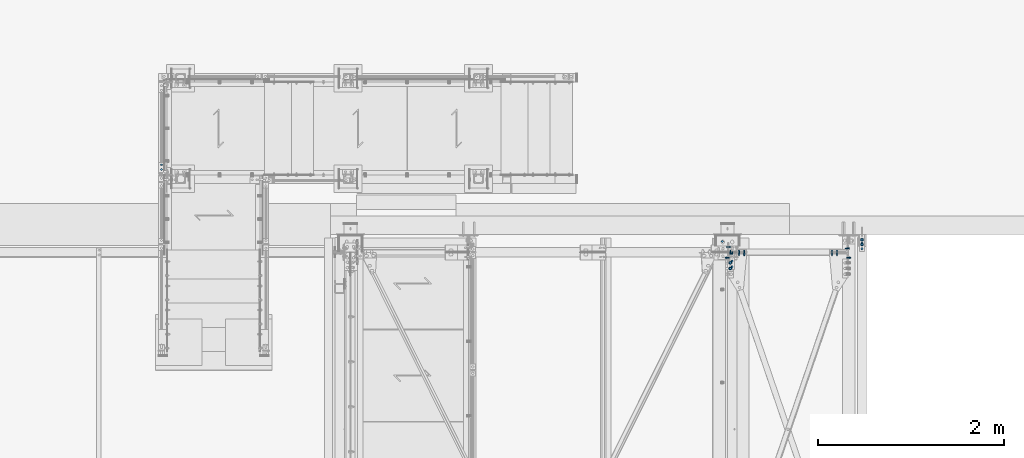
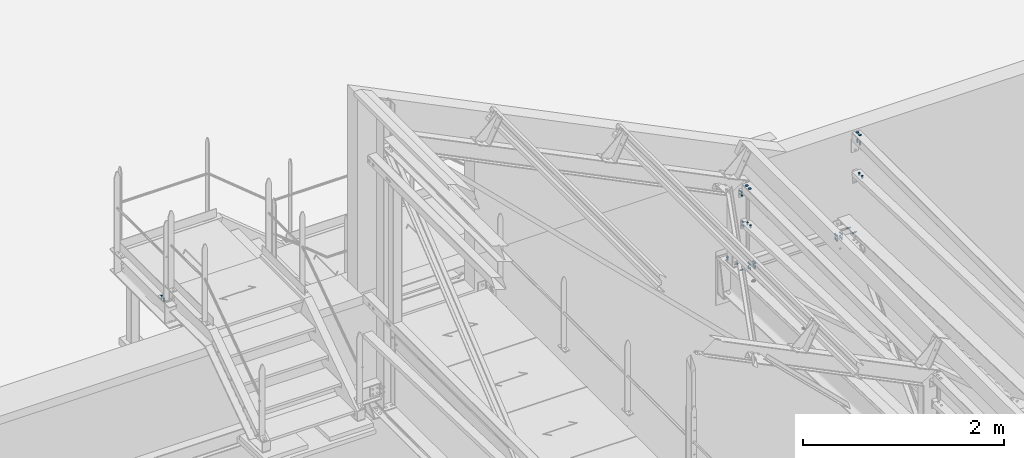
# One storey, part 336 of 362: 17 mechanical fasteners.
"""IFC2X3 building model written with IfcOpenShell, lengths in millimetres."""

from ifc_helpers import new_model, si_unit, frame, frame_2d, origin_with_axes, origin_2d_with_axis, place, context, subcontext, project, spatial, polyline, circle_curve, parameter, trimmed, segment, composite_curve, circle, outline, extrude, source, transform, mapped, material, type_object, element, save


model = new_model("IFC2X3")

# Units and contexts
model_context = context("Model", 3, precision=1e-05, world=origin_with_axes())
body_context = subcontext(model_context, "Body", "Model", "MODEL_VIEW")
ifc_project = project(units=[si_unit("LENGTHUNIT", "METRE", prefix="MILLI"), si_unit("AREAUNIT", "SQUARE_METRE"), si_unit("VOLUMEUNIT", "CUBIC_METRE"), si_unit("MASSUNIT", "GRAM", prefix="KILO"), si_unit("TIMEUNIT", "SECOND"), si_unit("PLANEANGLEUNIT", "RADIAN"), si_unit("SOLIDANGLEUNIT", "STERADIAN"), si_unit("THERMODYNAMICTEMPERATUREUNIT", "DEGREE_CELSIUS"), si_unit("LUMINOUSINTENSITYUNIT", "LUMEN")], contexts=[model_context])

# Site, building, storey
site_placement = place(None, origin_with_axes())
site = spatial("IfcSite", under=ifc_project, at=site_placement, Name="Undefined", CompositionType="ELEMENT")
building_placement = place(site_placement, origin_with_axes())
building = spatial("IfcBuilding", under=site, at=building_placement, Name="Undefined", CompositionType="ELEMENT")
storey_placement = place(building_placement, origin_with_axes())
storey = spatial("IfcBuildingStorey", under=building, at=storey_placement, Name="Undefined", CompositionType="ELEMENT", Elevation=0.0)

# Mechanical fasteners
ifc_material_1 = material(Name="8.8-SB-GALVA")
mechanical_fastener_type = type_object("IfcMechanicalFastenerType", Name="Bolt assembly")
shared_shape_1 = source(origin_with_axes(), body_context, "Body", "SweptSolid", [
    extrude(circle(Radius=7.0, at=origin_2d_with_axis()), frame((0.0, -0.100011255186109, 0.0), z_axis=(0.0, 1.0, 0.0), x_axis=(1.0, 0.0, 0.0)), (0.0, 0.0, 1.0), 12.9),
    extrude(circle(Radius=7.0, at=origin_2d_with_axis()), frame((0.0, -9.9, 0.0), z_axis=(0.0, 1.0, 0.0), x_axis=(1.0, 0.0, 0.0)), (0.0, 0.0, 1.0), 10.0),
    extrude(outline(polyline([(10.39230484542, 0.0), (5.19615242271, 9.00000000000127), (-5.19615242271, 9.00000000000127), (-10.39230484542, 0.0), (-5.19615242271, -9.00000000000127), (5.19615242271, -9.00000000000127), (10.39230484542, 0.0)])), frame((0.0, -17.92, 0.0), z_axis=(0.0, 1.0, 0.0), x_axis=(1.0, 0.0, 0.0)), (0.0, 0.0, 1.0), 7.92),
    extrude(circle(Radius=6.0, at=origin_2d_with_axis()), frame((0.0, -10.0000010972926, 0.0), z_axis=(0.0, 1.0, 0.0), x_axis=(1.0, 0.0, 0.0)), (0.0, 0.0, 1.0), 40.0),
    extrude(outline(polyline([(11.5008173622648, 0.0), (5.7504086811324, 9.96000000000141), (-5.7504086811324, 9.96000000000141), (-11.5008173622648, 0.0), (-5.7504086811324, -9.96000000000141), (5.7504086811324, -9.96000000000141), (11.5008173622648, 0.0)])), frame((0.0, 12.7984645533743, 0.0), z_axis=(0.0, 1.0, 0.0), x_axis=(1.0, 0.0, 0.0)), (0.0, 0.0, 1.0), 7.92),
])
mechanical_fastener_1_placement = place(storey_placement, frame((32249.9863365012, 16140.0014648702, 8700.00000001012), z_axis=(1.0, 0.0, 0.0), x_axis=(0.0, -1.0, 0.0)))
element("IfcMechanicalFastener", 1, at=mechanical_fastener_1_placement, inside=storey, type_object=mechanical_fastener_type, material=ifc_material_1, Name="Bolt assembly", NominalDiameter=12.0, NominalLength=40.0, context=body_context, shape_type="MappedRepresentation", body=[
    mapped(shared_shape_1, transform((0.0, 0.0, 0.0))),
    mapped(shared_shape_1, transform((49.9999999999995, 0.0, -3.63797880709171e-12))),
])
ifc_material_2 = material(Name="6.8")
shared_shape_2 = source(origin_with_axes(), body_context, "Body", "SweptSolid", [
    extrude(circle(Radius=15.0, at=origin_2d_with_axis()), frame((0.0, 0.0, 0.0), z_axis=(0.0, 1.0, 0.0), x_axis=(1.0, 0.0, 0.0)), (0.0, 0.0, 1.0), 4.1),
])
mechanical_fastener_2_placement = place(storey_placement, frame((38360.0, 15026.5, 8550.0), z_axis=(-1.0, 0.0, 0.0), x_axis=(0.0, 1.0, 0.0)))
element("IfcMechanicalFastener", 2, at=mechanical_fastener_2_placement, inside=storey, type_object=mechanical_fastener_type, material=ifc_material_2, Name="Bolt assembly", NominalDiameter=30.0, NominalLength=4.0, context=body_context, shape_type="MappedRepresentation", body=[
    mapped(shared_shape_2, transform((0.0, 0.0, 0.0))),
    mapped(shared_shape_2, transform((60.0, 0.0, 0.0))),
])
ifc_material_3 = material(Name="#_SB-8.8-ZINGUE")
shared_shape_3 = source(origin_with_axes(), body_context, "Body", "SweptSolid", [
    extrude(circle(Radius=7.0, at=origin_2d_with_axis()), frame((0.0, -0.100011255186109, 0.0), z_axis=(0.0, 1.0, 0.0), x_axis=(1.0, 0.0, 0.0)), (0.0, 0.0, 1.0), 14.7),
    extrude(outline(composite_curve([segment(polyline([(-7.0, 7.0), (7.0, 7.0)]), True, "CONTINUOUS"), segment(trimmed(circle_curve(frame_2d((7.0, 0.0), x_axis=(0.0, 1.0)), 7.0), [parameter(0.0)], [parameter(3.14159265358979)], False, "PARAMETER"), True, "CONTINUOUS"), segment(polyline([(7.0, -7.0), (-7.0, -7.0)]), True, "CONTINUOUS"), segment(trimmed(circle_curve(frame_2d((-7.0, 0.0), x_axis=(0.0, -1.0)), 7.0), [parameter(0.0)], [parameter(3.14159265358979)], False, "PARAMETER"), True, "DISCONTINUOUS")], self_intersect=False)), frame((0.0, -1.90000109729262, 0.0), z_axis=(0.0, 1.0, 0.0), x_axis=(1.0, 0.0, 0.0)), (0.0, 0.0, 1.0), 2.0),
    extrude(outline(polyline([(10.39230484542, 0.0), (5.19615242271, 9.00000000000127), (-5.19615242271, 9.00000000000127), (-10.39230484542, 0.0), (-5.19615242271, -9.00000000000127), (5.19615242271, -9.00000000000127), (10.39230484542, 0.0)])), frame((0.0, -13.8800244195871, 0.0), z_axis=(0.0, 1.0, 0.0), x_axis=(1.0, 0.0, 0.0)), (0.0, 0.0, 1.0), 7.92),
    extrude(circle(Radius=6.0, at=origin_2d_with_axis()), frame((0.0, -5.96002441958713, 0.0), z_axis=(0.0, 1.0, 0.0), x_axis=(1.0, 0.0, 0.0)), (0.0, 0.0, 1.0), 40.0),
    extrude(circle(Radius=10.8, at=origin_2d_with_axis()), frame((0.0, -5.96002441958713, 0.0), z_axis=(0.0, 1.0, 0.0), x_axis=(1.0, 0.0, 0.0)), (0.0, 0.0, 1.0), 3.96),
    extrude(outline(polyline([(11.5008173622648, 0.0), (5.7504086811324, 9.96000000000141), (-5.7504086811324, 9.96000000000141), (-11.5008173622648, 0.0), (-5.7504086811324, -9.96000000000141), (5.7504086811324, -9.96000000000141), (11.5008173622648, 0.0)])), frame((0.0, 14.5999903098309, 0.0), z_axis=(0.0, 1.0, 0.0), x_axis=(1.0, 0.0, 0.0)), (0.0, 0.0, 1.0), 7.92),
])
mechanical_fastener_3_placement = place(storey_placement, frame((38275.0, 15317.3222832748, 7568.63375588), z_axis=(0.0, -0.999506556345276, 0.031410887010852), x_axis=(-1.0, 0.0, 0.0)))
element("IfcMechanicalFastener", 3, at=mechanical_fastener_3_placement, inside=storey, type_object=mechanical_fastener_type, material=ifc_material_3, Name="Bolt assembly", NominalDiameter=12.0, NominalLength=40.0, context=body_context, shape_type="MappedRepresentation", body=[
    mapped(shared_shape_3, transform((0.0, 0.0, 0.0))),
])
ifc_material_4 = material(Name="8.8-SB-ZINGUE")
shared_shape_4 = source(origin_with_axes(), body_context, "Body", "SweptSolid", [
    extrude(circle(Radius=7.0, at=origin_2d_with_axis()), frame((0.0, -3.90351516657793, 0.0), z_axis=(0.0, 1.0, 0.0), x_axis=(1.0, 0.0, 0.0)), (0.0, 0.0, 1.0), 4.0),
    extrude(outline(composite_curve([segment(polyline([(-7.0, 7.0), (7.0, 7.0)]), True, "CONTINUOUS"), segment(trimmed(circle_curve(frame_2d((7.0, 0.0), x_axis=(0.0, 1.0)), 7.0), [parameter(0.0)], [parameter(3.14159265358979)], False, "PARAMETER"), True, "CONTINUOUS"), segment(polyline([(7.0, -7.0), (-7.0, -7.0)]), True, "CONTINUOUS"), segment(trimmed(circle_curve(frame_2d((-7.0, 0.0), x_axis=(0.0, -1.0)), 7.0), [parameter(0.0)], [parameter(3.14159265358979)], False, "PARAMETER"), True, "DISCONTINUOUS")], self_intersect=False)), frame((0.0, -0.100011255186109, 0.0), z_axis=(0.0, 1.0, 0.0), x_axis=(1.0, 0.0, 0.0)), (0.0, 0.0, 1.0), 6.1),
    extrude(outline(polyline([(10.39230484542, 0.0), (5.19615242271, 9.00000000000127), (-5.19615242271, 9.00000000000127), (-10.39230484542, 0.0), (-5.19615242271, -9.00000000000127), (5.19615242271, -9.00000000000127), (10.39230484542, 0.0)])), frame((0.0, -11.9235151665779, 0.0), z_axis=(0.0, 1.0, 0.0), x_axis=(1.0, 0.0, 0.0)), (0.0, 0.0, 1.0), 7.92),
    extrude(circle(Radius=6.0, at=origin_2d_with_axis()), frame((0.0, -4.00351516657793, 0.0), z_axis=(0.0, 1.0, 0.0), x_axis=(1.0, 0.0, 0.0)), (0.0, 0.0, 1.0), 30.0),
    extrude(circle(Radius=10.8, at=origin_2d_with_axis()), frame((0.0, 6.0, 0.0), z_axis=(0.0, 1.0, 0.0), x_axis=(1.0, 0.0, 0.0)), (0.0, 0.0, 1.0), 3.96),
    extrude(outline(polyline([(11.5008173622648, 0.0), (5.7504086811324, 9.96000000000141), (-5.7504086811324, 9.96000000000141), (-11.5008173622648, 0.0), (-5.7504086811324, -9.96000000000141), (5.7504086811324, -9.96000000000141), (11.5008173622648, 0.0)])), frame((0.0, 9.9600084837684, 0.0), z_axis=(0.0, 1.0, 0.0), x_axis=(1.0, 0.0, 0.0)), (0.0, 0.0, 1.0), 7.92),
])
mechanical_fastener_4_placement = place(storey_placement, frame((39774.9999999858, 15238.5444282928, 8072.35326809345), z_axis=(-1.0, 0.0, 0.0), x_axis=(0.0, 0.99950644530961, -0.0314144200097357)))
element("IfcMechanicalFastener", 4, at=mechanical_fastener_4_placement, inside=storey, type_object=mechanical_fastener_type, material=ifc_material_4, Name="Bolt assembly", NominalDiameter=12.0, NominalLength=30.0, context=body_context, shape_type="MappedRepresentation", body=[
    mapped(shared_shape_4, transform((0.0, 0.0, 0.0))),
    mapped(shared_shape_4, transform((60.0, 0.0, 0.0))),
])
shared_shape_5 = source(origin_with_axes(), body_context, "Body", "SweptSolid", [
    extrude(circle(Radius=7.0, at=origin_2d_with_axis()), frame((0.0, -0.0970209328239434, 0.0), z_axis=(0.0, 1.0, 0.0), x_axis=(1.0, 0.0, 0.0)), (0.0, 0.0, 1.0), 4.1),
    extrude(outline(composite_curve([segment(polyline([(-7.0, 7.0), (7.0, 7.0)]), True, "CONTINUOUS"), segment(trimmed(circle_curve(frame_2d((7.0, 0.0), x_axis=(0.0, 1.0)), 7.0), [parameter(0.0)], [parameter(3.14159265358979)], False, "PARAMETER"), True, "CONTINUOUS"), segment(polyline([(7.0, -7.0), (-7.0, -7.0)]), True, "CONTINUOUS"), segment(trimmed(circle_curve(frame_2d((-7.0, 0.0), x_axis=(0.0, -1.0)), 7.0), [parameter(0.0)], [parameter(3.14159265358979)], False, "PARAMETER"), True, "DISCONTINUOUS")], self_intersect=False)), frame((0.0, -9.9, 0.0), z_axis=(0.0, 1.0, 0.0), x_axis=(1.0, 0.0, 0.0)), (0.0, 0.0, 1.0), 10.0),
    extrude(outline(polyline([(10.39230484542, 0.0), (5.19615242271, 9.00000000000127), (-5.19615242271, 9.00000000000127), (-10.39230484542, 0.0), (-5.19615242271, -9.00000000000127), (5.19615242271, -9.00000000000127), (10.39230484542, 0.0)])), frame((0.0, -21.88, 0.0), z_axis=(0.0, 1.0, 0.0), x_axis=(1.0, 0.0, 0.0)), (0.0, 0.0, 1.0), 7.92),
    extrude(circle(Radius=6.0, at=origin_2d_with_axis()), frame((0.0, -13.96, 0.0), z_axis=(0.0, 1.0, 0.0), x_axis=(1.0, 0.0, 0.0)), (0.0, 0.0, 1.0), 40.0),
    extrude(circle(Radius=10.8, at=origin_2d_with_axis()), frame((0.0, -13.96, 0.0), z_axis=(0.0, 1.0, 0.0), x_axis=(1.0, 0.0, 0.0)), (0.0, 0.0, 1.0), 3.96),
    extrude(outline(polyline([(11.5008173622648, 0.0), (5.7504086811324, 9.96000000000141), (-5.7504086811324, 9.96000000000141), (-11.5008173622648, 0.0), (-5.7504086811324, -9.96000000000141), (5.7504086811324, -9.96000000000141), (11.5008173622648, 0.0)])), frame((0.0, 4.00297906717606, 0.0), z_axis=(0.0, 1.0, 0.0), x_axis=(1.0, 0.0, 0.0)), (0.0, 0.0, 1.0), 7.92),
])
mechanical_fastener_5_placement = place(storey_placement, frame((39775.0029830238, 15285.0000000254, 8449.99702093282), z_axis=(1.0, 0.0, 0.0), x_axis=(0.0, 1.0, 0.0)))
element("IfcMechanicalFastener", 5, at=mechanical_fastener_5_placement, inside=storey, type_object=mechanical_fastener_type, material=ifc_material_4, Name="Bolt assembly", NominalDiameter=12.0, NominalLength=40.0, context=body_context, shape_type="MappedRepresentation", body=[
    mapped(shared_shape_5, transform((0.0, 0.0, 0.0))),
    mapped(shared_shape_5, transform((49.9999999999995, 0.0, -3.63797880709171e-12))),
])
shared_shape_6 = source(origin_with_axes(), body_context, "Body", "SweptSolid", [
    extrude(circle(Radius=15.0, at=origin_2d_with_axis()), frame((0.0, -3.99702093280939, 0.0), z_axis=(0.0, 1.0, 0.0), x_axis=(1.0, 0.0, 0.0)), (0.0, 0.0, 1.0), 4.1),
])
mechanical_fastener_6_placement = place(storey_placement, frame((39775.0029830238, 15285.0000000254, 8549.99702093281), z_axis=(1.0, 0.0, 0.0), x_axis=(0.0, 1.0, 0.0)))
element("IfcMechanicalFastener", 6, at=mechanical_fastener_6_placement, inside=storey, type_object=mechanical_fastener_type, material=ifc_material_2, Name="Bolt assembly", NominalDiameter=30.0, NominalLength=4.0, context=body_context, shape_type="MappedRepresentation", body=[
    mapped(shared_shape_6, transform((0.0, 0.0, 0.0))),
    mapped(shared_shape_6, transform((49.9999999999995, 0.0, -3.63797880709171e-12))),
])
shared_shape_7 = source(origin_with_axes(), body_context, "Body", "SweptSolid", [
    extrude(circle(Radius=7.0, at=origin_2d_with_axis()), frame((0.0, -2.6999999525, 0.0), z_axis=(0.0, 1.0, 0.0), x_axis=(1.0, 0.0, 0.0)), (0.0, 0.0, 1.0), 5.6),
    extrude(circle(Radius=7.0, at=origin_2d_with_axis()), frame((0.0, 3.40000111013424, 0.0), z_axis=(0.0, 1.0, 0.0), x_axis=(1.0, 0.0, 0.0)), (0.0, 0.0, 1.0), 6.1),
    extrude(outline(polyline([(10.39230484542, 0.0), (5.19615242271, 9.00000000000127), (-5.19615242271, 9.00000000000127), (-10.39230484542, 0.0), (-5.19615242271, -9.00000000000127), (5.19615242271, -9.00000000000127), (10.39230484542, 0.0)])), frame((0.0, -10.7199999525, 0.0), z_axis=(0.0, 1.0, 0.0), x_axis=(1.0, 0.0, 0.0)), (0.0, 0.0, 1.0), 7.92),
    extrude(circle(Radius=6.0, at=origin_2d_with_axis()), frame((0.0, -2.7999999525, 0.0), z_axis=(0.0, 1.0, 0.0), x_axis=(1.0, 0.0, 0.0)), (0.0, 0.0, 1.0), 30.0),
    extrude(outline(polyline([(11.5008173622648, 0.0), (5.7504086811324, 9.96000000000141), (-5.7504086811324, 9.96000000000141), (-11.5008173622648, 0.0), (-5.7504086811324, -9.96000000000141), (5.7504086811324, -9.96000000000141), (11.5008173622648, 0.0)])), frame((0.0, 9.50000815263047, 0.0), z_axis=(0.0, 1.0, 0.0), x_axis=(1.0, 0.0, 0.0)), (0.0, 0.0, 1.0), 7.92),
])
mechanical_fastener_7_placement = place(storey_placement, frame((38380.0000000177, 15200.0, 7988.56857969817), z_axis=(1.0, 0.0, 0.0), x_axis=(0.0, 0.0, 1.0)))
element("IfcMechanicalFastener", 7, at=mechanical_fastener_7_placement, inside=storey, type_object=mechanical_fastener_type, material=ifc_material_4, Name="Bolt assembly", NominalDiameter=12.0, NominalLength=30.0, context=body_context, shape_type="MappedRepresentation", body=[
    mapped(shared_shape_7, transform((0.0, 0.0, 0.0))),
    mapped(shared_shape_7, transform((49.9999999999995, 0.0, -3.63797880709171e-12))),
])
shared_shape_8 = source(origin_with_axes(), body_context, "Body", "SweptSolid", [
    extrude(circle(Radius=7.0, at=origin_2d_with_axis()), frame((0.0, -3.89991628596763, 0.0), z_axis=(0.0, 1.0, 0.0), x_axis=(1.0, 0.0, 0.0)), (0.0, 0.0, 1.0), 4.0),
    extrude(outline(composite_curve([segment(polyline([(-7.0, 7.0), (7.0, 7.0)]), True, "CONTINUOUS"), segment(trimmed(circle_curve(frame_2d((7.0, 0.0), x_axis=(0.0, 1.0)), 7.0), [parameter(0.0)], [parameter(3.14159265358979)], False, "PARAMETER"), True, "CONTINUOUS"), segment(polyline([(7.0, -7.0), (-7.0, -7.0)]), True, "CONTINUOUS"), segment(trimmed(circle_curve(frame_2d((-7.0, 0.0), x_axis=(0.0, -1.0)), 7.0), [parameter(0.0)], [parameter(3.14159265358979)], False, "PARAMETER"), True, "DISCONTINUOUS")], self_intersect=False)), frame((0.0, -0.100011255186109, 0.0), z_axis=(0.0, 1.0, 0.0), x_axis=(1.0, 0.0, 0.0)), (0.0, 0.0, 1.0), 6.1),
    extrude(outline(polyline([(10.39230484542, 0.0), (5.19615242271, 9.00000000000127), (-5.19615242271, 9.00000000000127), (-10.39230484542, 0.0), (-5.19615242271, -9.00000000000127), (5.19615242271, -9.00000000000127), (10.39230484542, 0.0)])), frame((0.0, -11.9199162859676, 0.0), z_axis=(0.0, 1.0, 0.0), x_axis=(1.0, 0.0, 0.0)), (0.0, 0.0, 1.0), 7.92),
    extrude(circle(Radius=6.0, at=origin_2d_with_axis()), frame((0.0, -3.99991628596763, 0.0), z_axis=(0.0, 1.0, 0.0), x_axis=(1.0, 0.0, 0.0)), (0.0, 0.0, 1.0), 30.0),
    extrude(circle(Radius=10.8, at=origin_2d_with_axis()), frame((0.0, 6.0, 0.0), z_axis=(0.0, 1.0, 0.0), x_axis=(1.0, 0.0, 0.0)), (0.0, 0.0, 1.0), 3.96),
    extrude(outline(polyline([(11.5008173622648, 0.0), (5.7504086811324, 9.96000000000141), (-5.7504086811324, 9.96000000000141), (-11.5008173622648, 0.0), (-5.7504086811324, -9.96000000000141), (5.7504086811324, -9.96000000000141), (11.5008173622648, 0.0)])), frame((0.0, 9.9600084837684, 0.0), z_axis=(0.0, 1.0, 0.0), x_axis=(1.0, 0.0, 0.0)), (0.0, 0.0, 1.0), 7.92),
])
mechanical_fastener_8_placement = place(storey_placement, frame((38380.0, 15045.0444201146, 8078.43882412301), z_axis=(-1.0, 0.0, 0.0), x_axis=(0.0, 0.99950644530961, -0.0314144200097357)))
element("IfcMechanicalFastener", 8, at=mechanical_fastener_8_placement, inside=storey, type_object=mechanical_fastener_type, material=ifc_material_4, Name="Bolt assembly", NominalDiameter=12.0, NominalLength=30.0, context=body_context, shape_type="MappedRepresentation", body=[
    mapped(shared_shape_8, transform((0.0, 0.0, 0.0))),
    mapped(shared_shape_8, transform((60.0, 0.0, 0.0))),
])
shared_shape_9 = source(origin_with_axes(), body_context, "Body", "SweptSolid", [
    extrude(circle(Radius=7.0, at=origin_2d_with_axis()), frame((0.0, -2.90010483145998, 0.0), z_axis=(0.0, 1.0, 0.0), x_axis=(1.0, 0.0, 0.0)), (0.0, 0.0, 1.0), 5.7),
    extrude(circle(Radius=7.0, at=origin_2d_with_axis()), frame((0.0, -13.4001048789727, 0.0), z_axis=(0.0, 1.0, 0.0), x_axis=(1.0, 0.0, 0.0)), (0.0, 0.0, 1.0), 10.0),
    extrude(outline(polyline([(10.39230484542, 0.0), (5.19615242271, 9.00000000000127), (-5.19615242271, 9.00000000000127), (-10.39230484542, 0.0), (-5.19615242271, -9.00000000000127), (5.19615242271, -9.00000000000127), (10.39230484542, 0.0)])), frame((0.0, -21.4201048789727, 0.0), z_axis=(0.0, 1.0, 0.0), x_axis=(1.0, 0.0, 0.0)), (0.0, 0.0, 1.0), 7.92),
    extrude(circle(Radius=6.0, at=origin_2d_with_axis()), frame((0.0, -13.5000574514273, 0.0), z_axis=(0.0, 1.0, 0.0), x_axis=(1.0, 0.0, 0.0)), (0.0, 0.0, 1.0), 40.0),
    extrude(outline(polyline([(11.5008173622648, 0.0), (5.7504086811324, 9.96000000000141), (-5.7504086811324, 9.96000000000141), (-11.5008173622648, 0.0), (-5.7504086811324, -9.96000000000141), (5.7504086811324, -9.96000000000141), (11.5008173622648, 0.0)])), frame((0.0, 2.79989507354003, 0.0), z_axis=(0.0, 1.0, 0.0), x_axis=(1.0, 0.0, 0.0)), (0.0, 0.0, 1.0), 7.92),
])
mechanical_fastener_9_placement = place(storey_placement, frame((38360.0, 15200.000104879, 8370.0), z_axis=(-1.0, 0.0, 0.0), x_axis=(0.0, 0.0, 1.0)))
element("IfcMechanicalFastener", 9, at=mechanical_fastener_9_placement, inside=storey, type_object=mechanical_fastener_type, material=ifc_material_4, Name="Bolt assembly", NominalDiameter=12.0, NominalLength=40.0, context=body_context, shape_type="MappedRepresentation", body=[
    mapped(shared_shape_9, transform((0.0, 0.0, 0.0))),
    mapped(shared_shape_9, transform((40.0, 0.0, 0.0))),
])
shared_shape_10 = source(origin_with_axes(), body_context, "Body", "SweptSolid", [
    extrude(circle(Radius=6.0, at=origin_2d_with_axis()), frame((0.0, -6.19999893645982, 0.0), z_axis=(0.0, 1.0, 0.0), x_axis=(1.0, 0.0, 0.0)), (0.0, 0.0, 1.0), 6.3),
    extrude(circle(Radius=6.0, at=origin_2d_with_axis()), frame((0.0, -0.10007666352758, 0.0), z_axis=(0.0, 1.0, 0.0), x_axis=(1.0, 0.0, 0.0)), (0.0, 0.0, 1.0), 6.1),
    extrude(outline(polyline([(9.81495457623, 0.0), (4.907477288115, 8.5000000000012), (-4.907477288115, 8.5000000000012), (-9.81495457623, 0.0), (-4.907477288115, -8.5000000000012), (4.907477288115, -8.5000000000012), (9.81495457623, 0.0)])), frame((0.0, -13.7999989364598, 0.0), z_axis=(0.0, 1.0, 0.0), x_axis=(1.0, 0.0, 0.0)), (0.0, 0.0, 1.0), 7.5),
    extrude(circle(Radius=5.0, at=origin_2d_with_axis()), frame((0.0, -6.29999893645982, 0.0), z_axis=(0.0, 1.0, 0.0), x_axis=(1.0, 0.0, 0.0)), (0.0, 0.0, 1.0), 30.0),
    extrude(outline(polyline([(9.23760430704, 0.0), (4.61880215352, 8.00000000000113), (-4.61880215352, 8.00000000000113), (-9.23760430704, 0.0), (-4.61880215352, -8.00000000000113), (4.61880215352, -8.00000000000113), (9.23760430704, 0.0)])), frame((0.0, 6.0, 0.0), z_axis=(0.0, 1.0, 0.0), x_axis=(1.0, 0.0, 0.0)), (0.0, 0.0, 1.0), 8.4),
])
mechanical_fastener_10_placement = place(storey_placement, frame((39451.5000116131, 15198.1157738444, 7452.32067480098), z_axis=(3.14103090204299e-11, 0.999506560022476, -0.0314107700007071), x_axis=(1.0, 0.0, 0.0)))
element("IfcMechanicalFastener", 10, at=mechanical_fastener_10_placement, inside=storey, type_object=mechanical_fastener_type, material=ifc_material_2, Name="Bolt assembly", NominalDiameter=10.0, NominalLength=30.0, context=body_context, shape_type="MappedRepresentation", body=[
    mapped(shared_shape_10, transform((0.0, 3.18323145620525e-11, -16.9999999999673))),
    mapped(shared_shape_10, transform((55.0, 8.18545231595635e-12, -16.9999999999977))),
    mapped(shared_shape_10, transform((0.0, -3.18323145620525e-11, 16.9999999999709))),
    mapped(shared_shape_10, transform((55.0, -7.27595761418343e-12, 16.9999999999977))),
])
shared_shape_11 = source(origin_with_axes(), body_context, "Body", "SweptSolid", [
    extrude(circle(Radius=6.0, at=origin_2d_with_axis()), frame((0.0, -6.19999893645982, 0.0), z_axis=(0.0, 1.0, 0.0), x_axis=(1.0, 0.0, 0.0)), (0.0, 0.0, 1.0), 6.3),
    extrude(circle(Radius=6.0, at=origin_2d_with_axis()), frame((0.0, -0.10007666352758, 0.0), z_axis=(0.0, 1.0, 0.0), x_axis=(1.0, 0.0, 0.0)), (0.0, 0.0, 1.0), 6.1),
    extrude(outline(polyline([(9.81495457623, 0.0), (4.907477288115, 8.5000000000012), (-4.907477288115, 8.5000000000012), (-9.81495457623, 0.0), (-4.907477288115, -8.5000000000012), (4.907477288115, -8.5000000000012), (9.81495457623, 0.0)])), frame((0.0, -13.7999989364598, 0.0), z_axis=(0.0, 1.0, 0.0), x_axis=(1.0, 0.0, 0.0)), (0.0, 0.0, 1.0), 7.5),
    extrude(circle(Radius=5.0, at=origin_2d_with_axis()), frame((0.0, -6.29999893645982, 0.0), z_axis=(0.0, 1.0, 0.0), x_axis=(1.0, 0.0, 0.0)), (0.0, 0.0, 1.0), 30.0),
    extrude(outline(polyline([(9.23760430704, 0.0), (4.61880215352, 8.00000000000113), (-4.61880215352, 8.00000000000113), (-9.23760430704, 0.0), (-4.61880215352, -8.00000000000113), (4.61880215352, -8.00000000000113), (9.23760430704, 0.0)])), frame((0.0, 5.99989660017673, 0.0), z_axis=(0.0, 1.0, 0.0), x_axis=(1.0, 0.0, 0.0)), (0.0, 0.0, 1.0), 8.4),
])
mechanical_fastener_11_placement = place(storey_placement, frame((38510.0, 15198.1157738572, 7452.3206748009), z_axis=(0.0, -0.999506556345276, 0.031410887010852), x_axis=(-1.0, 0.0, 0.0)))
element("IfcMechanicalFastener", 11, at=mechanical_fastener_11_placement, inside=storey, type_object=mechanical_fastener_type, material=ifc_material_2, Name="Bolt assembly", NominalDiameter=10.0, NominalLength=30.0, context=body_context, shape_type="MappedRepresentation", body=[
    mapped(shared_shape_11, transform((0.0, 3.18323145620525e-11, -16.9999999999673))),
    mapped(shared_shape_11, transform((55.0, 8.18545231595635e-12, -16.9999999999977))),
    mapped(shared_shape_11, transform((0.0, -3.18323145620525e-11, 16.9999999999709))),
    mapped(shared_shape_11, transform((55.0, -7.27595761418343e-12, 16.9999999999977))),
])
shared_shape_12 = source(origin_with_axes(), body_context, "Body", "SweptSolid", [
    extrude(circle(Radius=7.0, at=origin_2d_with_axis()), frame((0.0, -1.69999995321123, 0.0), z_axis=(0.0, 1.0, 0.0), x_axis=(1.0, 0.0, 0.0)), (0.0, 0.0, 1.0), 6.6),
    extrude(circle(Radius=7.0, at=origin_2d_with_axis()), frame((0.0, 4.9000000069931, 0.0), z_axis=(0.0, 1.0, 0.0), x_axis=(1.0, 0.0, 0.0)), (0.0, 0.0, 1.0), 10.1),
    extrude(outline(polyline([(10.39230484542, 0.0), (5.19615242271, 9.00000000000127), (-5.19615242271, 9.00000000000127), (-10.39230484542, 0.0), (-5.19615242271, -9.00000000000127), (5.19615242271, -9.00000000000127), (10.39230484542, 0.0)])), frame((0.0, -9.71999995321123, 0.0), z_axis=(0.0, 1.0, 0.0), x_axis=(1.0, 0.0, 0.0)), (0.0, 0.0, 1.0), 7.92),
    extrude(circle(Radius=6.0, at=origin_2d_with_axis()), frame((0.0, -1.79999995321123, 0.0), z_axis=(0.0, 1.0, 0.0), x_axis=(1.0, 0.0, 0.0)), (0.0, 0.0, 1.0), 40.0),
    extrude(outline(polyline([(11.5008173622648, 0.0), (5.7504086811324, 9.96000000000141), (-5.7504086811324, 9.96000000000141), (-11.5008173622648, 0.0), (-5.7504086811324, -9.96000000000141), (5.7504086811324, -9.96000000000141), (11.5008173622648, 0.0)])), frame((0.0, 15.0000000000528, 0.0), z_axis=(0.0, 1.0, 0.0), x_axis=(1.0, 0.0, 0.0)), (0.0, 0.0, 1.0), 7.92),
])
mechanical_fastener_12_placement = place(storey_placement, frame((39631.5, 15242.6655245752, 7500.94531442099), z_axis=(-1.05403257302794e-09, -0.0314112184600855, -0.999506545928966), x_axis=(0.0, -0.999506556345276, 0.031410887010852)))
element("IfcMechanicalFastener", 12, at=mechanical_fastener_12_placement, inside=storey, type_object=mechanical_fastener_type, material=ifc_material_4, Name="Bolt assembly", NominalDiameter=12.0, NominalLength=40.0, context=body_context, shape_type="MappedRepresentation", body=[
    mapped(shared_shape_12, transform((0.0, 0.0, 0.0))),
])
shared_shape_13 = source(origin_with_axes(), body_context, "Body", "SweptSolid", [
    extrude(circle(Radius=7.0, at=origin_2d_with_axis()), frame((0.0, -4.90000000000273, 0.0), z_axis=(0.0, 1.0, 0.0), x_axis=(1.0, 0.0, 0.0)), (0.0, 0.0, 1.0), 6.7),
    extrude(circle(Radius=7.0, at=origin_2d_with_axis()), frame((0.0, -14.899999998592, 0.0), z_axis=(0.0, 1.0, 0.0), x_axis=(1.0, 0.0, 0.0)), (0.0, 0.0, 1.0), 10.0),
    extrude(outline(polyline([(10.39230484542, 0.0), (5.19615242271, 9.00000000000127), (-5.19615242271, 9.00000000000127), (-10.39230484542, 0.0), (-5.19615242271, -9.00000000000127), (5.19615242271, -9.00000000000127), (10.39230484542, 0.0)])), frame((0.0, -22.919999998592, 0.0), z_axis=(0.0, 1.0, 0.0), x_axis=(1.0, 0.0, 0.0)), (0.0, 0.0, 1.0), 7.92),
    extrude(circle(Radius=6.0, at=origin_2d_with_axis()), frame((0.0, -14.999999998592, 0.0), z_axis=(0.0, 1.0, 0.0), x_axis=(1.0, 0.0, 0.0)), (0.0, 0.0, 1.0), 40.0),
    extrude(outline(polyline([(11.5008173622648, 0.0), (5.7504086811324, 9.96000000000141), (-5.7504086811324, 9.96000000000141), (-11.5008173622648, 0.0), (-5.7504086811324, -9.96000000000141), (5.7504086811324, -9.96000000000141), (11.5008173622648, 0.0)])), frame((0.0, 1.79999995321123, 0.0), z_axis=(0.0, 1.0, 0.0), x_axis=(1.0, 0.0, 0.0)), (0.0, 0.0, 1.0), 7.92),
])
mechanical_fastener_13_placement = place(storey_placement, frame((39631.5, 15141.71450383, 7504.11794550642), z_axis=(-1.05403257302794e-09, -0.0314112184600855, -0.999506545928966), x_axis=(3.14103090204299e-11, 0.999506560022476, -0.0314107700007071)))
element("IfcMechanicalFastener", 13, at=mechanical_fastener_13_placement, inside=storey, type_object=mechanical_fastener_type, material=ifc_material_4, Name="Bolt assembly", NominalDiameter=12.0, NominalLength=40.0, context=body_context, shape_type="MappedRepresentation", body=[
    mapped(shared_shape_13, transform((0.0, 0.0, 0.0))),
])
shared_shape_14 = source(origin_with_axes(), body_context, "Body", "SweptSolid", [
    extrude(circle(Radius=7.0, at=origin_2d_with_axis()), frame((0.0, -2.20000854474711, 0.0), z_axis=(0.0, 1.0, 0.0), x_axis=(1.0, 0.0, 0.0)), (0.0, 0.0, 1.0), 4.4),
    extrude(circle(Radius=7.0, at=origin_2d_with_axis()), frame((0.0, 2.90000527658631, 0.0), z_axis=(0.0, 1.0, 0.0), x_axis=(1.0, 0.0, 0.0)), (0.0, 0.0, 1.0), 10.1),
    extrude(circle(Radius=7.0, at=origin_2d_with_axis()), frame((0.0, -12.9008585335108, 0.0), z_axis=(0.0, 1.0, 0.0), x_axis=(1.0, 0.0, 0.0)), (0.0, 0.0, 1.0), 10.0),
    extrude(outline(polyline([(10.39230484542, 0.0), (5.19615242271, 9.00000000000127), (-5.19615242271, 9.00000000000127), (-10.39230484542, 0.0), (-5.19615242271, -9.00000000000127), (5.19615242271, -9.00000000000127), (10.39230484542, 0.0)])), frame((0.0, -20.9208585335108, 0.0), z_axis=(0.0, 1.0, 0.0), x_axis=(1.0, 0.0, 0.0)), (0.0, 0.0, 1.0), 7.92),
    extrude(circle(Radius=6.0, at=origin_2d_with_axis()), frame((0.0, -13.0008585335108, 0.0), z_axis=(0.0, 1.0, 0.0), x_axis=(1.0, 0.0, 0.0)), (0.0, 0.0, 1.0), 50.0),
    extrude(outline(polyline([(11.5008173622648, 0.0), (5.7504086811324, 9.96000000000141), (-5.7504086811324, 9.96000000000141), (-11.5008173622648, 0.0), (-5.7504086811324, -9.96000000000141), (5.7504086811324, -9.96000000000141), (11.5008173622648, 0.0)])), frame((0.0, 13.0000006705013, 0.0), z_axis=(0.0, 1.0, 0.0), x_axis=(1.0, 0.0, 0.0)), (0.0, 0.0, 1.0), 7.92),
])
for number, where, z_axis, x_axis, name in (
    (14, (39451.5, 15199.6858857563, 7502.29604818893), (-1.05403257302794e-09, -0.0314112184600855, -0.999506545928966), (1.0, 0.0, 0.0), "Bolt assembly"),
    (15, (38510.0, 15199.685885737, 7502.29604818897), (7.58071938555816e-11, 0.0314107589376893, 0.999506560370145), (-1.0, 0.0, 0.0), "Bolt assembly"),
):
    element("IfcMechanicalFastener", number, at=place(storey_placement, frame(where, z_axis=z_axis, x_axis=x_axis)), inside=storey, type_object=mechanical_fastener_type, material=ifc_material_4, Name=name, NominalDiameter=12.0, NominalLength=50.0, context=body_context, shape_type="MappedRepresentation", body=[
        mapped(shared_shape_14, transform((0.0, 0.0, 0.0))),
        mapped(shared_shape_14, transform((55.0000000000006, -1.81898940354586e-10, 0.0))),
    ])
shared_shape_15 = source(origin_with_axes(), body_context, "Body", "SweptSolid", [
    extrude(circle(Radius=7.0, at=origin_2d_with_axis()), frame((0.0, -4.59999980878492, 0.0), z_axis=(0.0, 1.0, 0.0), x_axis=(1.0, 0.0, 0.0)), (0.0, 0.0, 1.0), 9.4),
    extrude(circle(Radius=7.0, at=origin_2d_with_axis()), frame((0.0, 4.9000000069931, 0.0), z_axis=(0.0, 1.0, 0.0), x_axis=(1.0, 0.0, 0.0)), (0.0, 0.0, 1.0), 10.1),
    extrude(outline(polyline([(10.39230484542, 0.0), (5.19615242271, 9.00000000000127), (-5.19615242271, 9.00000000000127), (-10.39230484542, 0.0), (-5.19615242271, -9.00000000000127), (5.19615242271, -9.00000000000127), (10.39230484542, 0.0)])), frame((0.0, -12.6199998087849, 0.0), z_axis=(0.0, 1.0, 0.0), x_axis=(1.0, 0.0, 0.0)), (0.0, 0.0, 1.0), 7.92),
    extrude(circle(Radius=6.0, at=origin_2d_with_axis()), frame((0.0, -4.69999899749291, 0.0), z_axis=(0.0, 1.0, 0.0), x_axis=(1.0, 0.0, 0.0)), (0.0, 0.0, 1.0), 40.0),
    extrude(outline(polyline([(11.5008173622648, 0.0), (5.7504086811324, 9.96000000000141), (-5.7504086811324, 9.96000000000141), (-11.5008173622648, 0.0), (-5.7504086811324, -9.96000000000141), (5.7504086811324, -9.96000000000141), (11.5008173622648, 0.0)])), frame((0.0, 15.0000000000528, 0.0), z_axis=(0.0, 1.0, 0.0), x_axis=(1.0, 0.0, 0.0)), (0.0, 0.0, 1.0), 7.92),
])
mechanical_fastener_14_placement = place(storey_placement, frame((38330.0, 15257.6581225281, 7500.47413948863), z_axis=(7.58071938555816e-11, 0.0314107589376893, 0.999506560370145), x_axis=(0.0, -0.999506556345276, 0.031410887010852)))
element("IfcMechanicalFastener", 16, at=mechanical_fastener_14_placement, inside=storey, type_object=mechanical_fastener_type, material=ifc_material_4, Name="Bolt assembly", NominalDiameter=12.0, NominalLength=40.0, context=body_context, shape_type="MappedRepresentation", body=[
    mapped(shared_shape_15, transform((0.0, 0.0, 0.0))),
])
shared_shape_16 = source(origin_with_axes(), body_context, "Body", "SweptSolid", [
    extrude(circle(Radius=7.0, at=origin_2d_with_axis()), frame((0.0, -4.79999988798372, 0.0), z_axis=(0.0, 1.0, 0.0), x_axis=(1.0, 0.0, 0.0)), (0.0, 0.0, 1.0), 9.5),
    extrude(circle(Radius=7.0, at=origin_2d_with_axis()), frame((0.0, -14.899999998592, 0.0), z_axis=(0.0, 1.0, 0.0), x_axis=(1.0, 0.0, 0.0)), (0.0, 0.0, 1.0), 10.0),
    extrude(outline(polyline([(10.39230484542, 0.0), (5.19615242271, 9.00000000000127), (-5.19615242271, 9.00000000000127), (-10.39230484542, 0.0), (-5.19615242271, -9.00000000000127), (5.19615242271, -9.00000000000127), (10.39230484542, 0.0)])), frame((0.0, -22.919999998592, 0.0), z_axis=(0.0, 1.0, 0.0), x_axis=(1.0, 0.0, 0.0)), (0.0, 0.0, 1.0), 7.92),
    extrude(circle(Radius=6.0, at=origin_2d_with_axis()), frame((0.0, -14.999999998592, 0.0), z_axis=(0.0, 1.0, 0.0), x_axis=(1.0, 0.0, 0.0)), (0.0, 0.0, 1.0), 40.0),
    extrude(outline(polyline([(11.5008173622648, 0.0), (5.7504086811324, 9.96000000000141), (-5.7504086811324, 9.96000000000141), (-11.5008173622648, 0.0), (-5.7504086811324, -9.96000000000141), (5.7504086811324, -9.96000000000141), (11.5008173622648, 0.0)])), frame((0.0, 4.69999973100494, 0.0), z_axis=(0.0, 1.0, 0.0), x_axis=(1.0, 0.0, 0.0)), (0.0, 0.0, 1.0), 7.92),
])
mechanical_fastener_15_placement = place(storey_placement, frame((38330.0, 15141.7145038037, 7504.11794550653), z_axis=(7.58071938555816e-11, 0.0314107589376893, 0.999506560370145), x_axis=(3.14103090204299e-11, 0.999506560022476, -0.0314107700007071)))
element("IfcMechanicalFastener", 17, at=mechanical_fastener_15_placement, inside=storey, type_object=mechanical_fastener_type, material=ifc_material_4, Name="Bolt assembly", NominalDiameter=12.0, NominalLength=40.0, context=body_context, shape_type="MappedRepresentation", body=[
    mapped(shared_shape_16, transform((0.0, 0.0, 0.0))),
])

save(model, "model.ifc")
